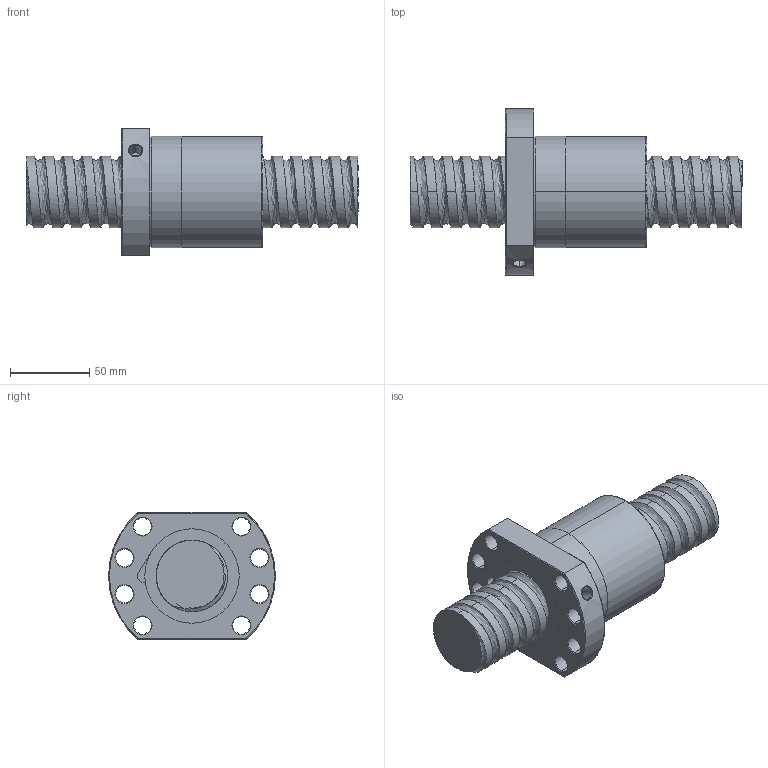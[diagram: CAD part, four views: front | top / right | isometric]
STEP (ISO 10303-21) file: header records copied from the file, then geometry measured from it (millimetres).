
FILE_DESCRIPTION (( 'STEP AP214' ), '1' );
FILE_NAME ('FSDC04512T5-F-C.STEP', '2010-06-25T12:59:43', ( 'XPAUTO' ), ( 'XPAUTO' ), 'SwSTEP 2.0', 'SolidWorks 2007', '' );
FILE_SCHEMA (( 'AUTOMOTIVE_DESIGN' ));
Length unit declared in the file: millimetre
Products named in the file (3): FSDC04512T5-F-C.sldasm-Part-1_預設; FSDC04512T5-F-C; FSDC04512T5-F-C.sldasm-Part-2_預設
Assembly tree (2 placements, depth 2):
  FSDC04512T5-F-C
    FSDC04512T5-F-C.sldasm-Part-2_預設
    FSDC04512T5-F-C.sldasm-Part-1_預設
Bounding box: 209 x 105 x 80 mm (x, y, z)
Volume: 554930.6 mm3; surface area: 87317.2 mm2
Topology: 2 solids, 2 shells, 141 faces, 349 edges, 217 vertices
Faces by surface type: cylinder 76, cone 32, plane 22, torus 6, bspline 5
Entity records: 26955 total; most frequent: CARTESIAN_POINT 23603, ORIENTED_EDGE 698, DIRECTION 657, EDGE_CURVE 349, AXIS2_PLACEMENT_3D 266, VERTEX_POINT 217, EDGE_LOOP 166, ADVANCED_FACE 141
